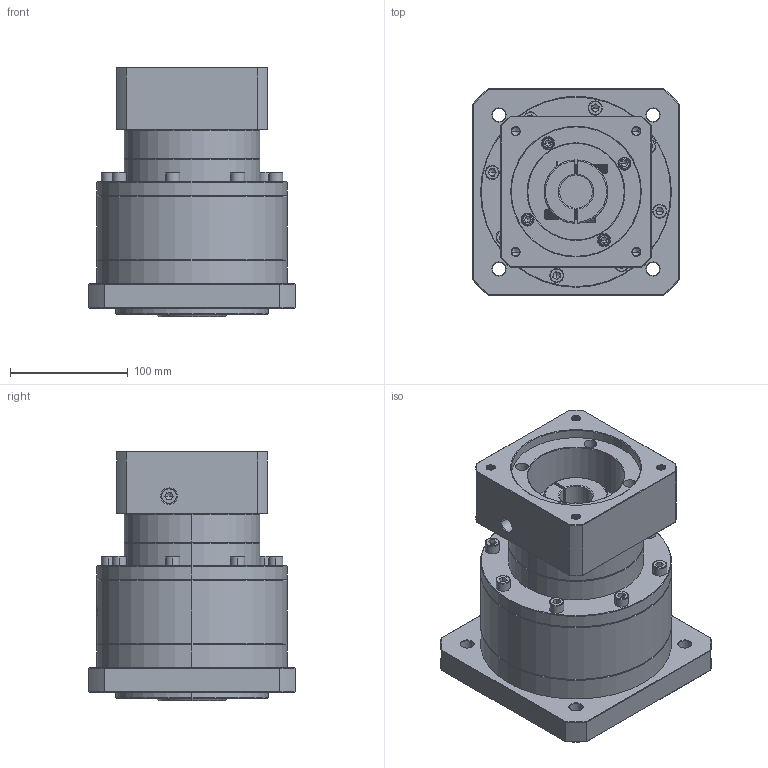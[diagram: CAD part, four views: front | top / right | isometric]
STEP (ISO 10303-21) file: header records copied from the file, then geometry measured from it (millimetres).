
FILE_DESCRIPTION (( 'STEP AP214' ), '1' );
FILE_NAME ('ZF160A-K35-L2-P2-28-110-145-M8.step', '2023-09-03T07:58:36', ( '' ), ( '' ), 'SwSTEP 2.0', 'SolidWorks 2016', '' );
FILE_SCHEMA (( 'AUTOMOTIVE_DESIGN' ));
Length unit declared in the file: millimetre
Products named in the file (1): ZF160A-K35-L2-P2-28-110-145-M8
Bounding box: 175 x 175 x 211.7 mm (x, y, z)
Volume: 3422634.3 mm3; surface area: 269557 mm2
Topology: 6 solids, 6 shells, 2362 faces, 6219 edges, 3982 vertices
Faces by surface type: plane 1111, cylinder 448, bspline 398, cone 349, torus 56
Entity records: 124614 total; most frequent: CARTESIAN_POINT 45286, ORIENTED_EDGE 12334, DIRECTION 9400, EDGE_CURVE 6167, VERTEX_POINT 3982, LINE 3310, VECTOR 3310, AXIS2_PLACEMENT_3D 3045
